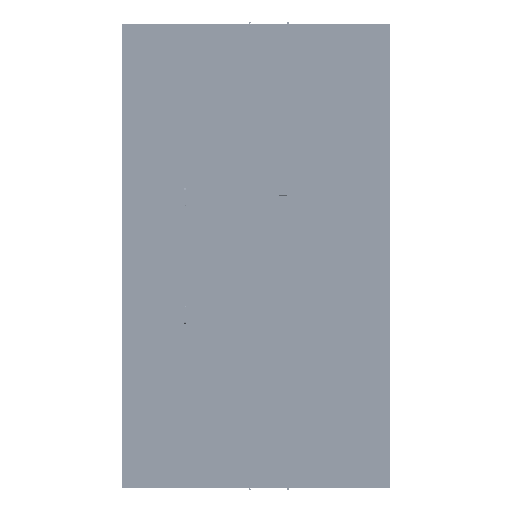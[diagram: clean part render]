
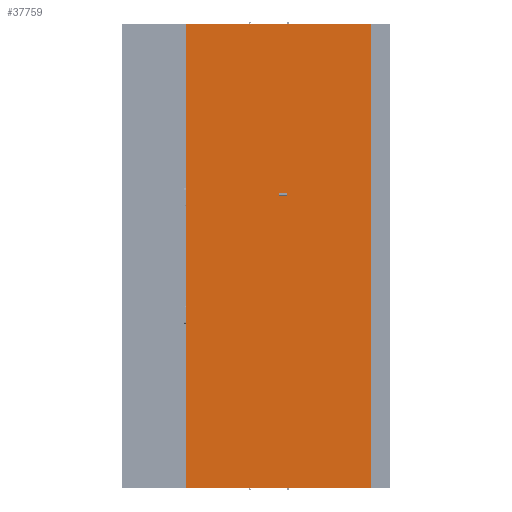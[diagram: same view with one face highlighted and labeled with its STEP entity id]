
A CAD part, left-side view. The second image highlights one B-rep face of the part: STEP entity #37759.
In plain terms, the highlighted planar face has unit normal (-1, 0, 0) as drawn and (0, 0, -1) by its records, which use the part's own axes.
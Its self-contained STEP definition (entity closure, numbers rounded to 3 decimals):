
#7487=FACE_OUTER_BOUND('',#9561,.T.);
#9561=EDGE_LOOP('',(#34307,#34308,#34309,#34310));
#12942=LINE('',#68495,#16391);
#12943=LINE('',#68498,#16392);
#12944=LINE('',#68500,#16393);
#12945=LINE('',#68501,#16394);
#16391=VECTOR('',#52333,0.394);
#16392=VECTOR('',#52336,0.394);
#16393=VECTOR('',#52337,0.394);
#16394=VECTOR('',#52338,0.394);
#19639=VERTEX_POINT('',#68491);
#19640=VERTEX_POINT('',#68493);
#19641=VERTEX_POINT('',#68497);
#19642=VERTEX_POINT('',#68499);
#24545=EDGE_CURVE('',#19639,#19640,#12942,.T.);
#24546=EDGE_CURVE('',#19641,#19639,#12943,.T.);
#24547=EDGE_CURVE('',#19642,#19640,#12944,.T.);
#24548=EDGE_CURVE('',#19641,#19642,#12945,.T.);
#34307=ORIENTED_EDGE('',*,*,#24546,.T.);
#34308=ORIENTED_EDGE('',*,*,#24545,.T.);
#34309=ORIENTED_EDGE('',*,*,#24547,.F.);
#34310=ORIENTED_EDGE('',*,*,#24548,.F.);
#35788=PLANE('',#42048);
#37759=ADVANCED_FACE('',(#7487),#35788,.T.);
#42048=AXIS2_PLACEMENT_3D('',#68496,#52334,#52335);
#52333=DIRECTION('',(0.,1.,0.));
#52334=DIRECTION('center_axis',(0.,0.,-1.));
#52335=DIRECTION('ref_axis',(-1.,0.,0.));
#52336=DIRECTION('',(-1.,0.,0.));
#52337=DIRECTION('',(-1.,0.,0.));
#52338=DIRECTION('',(0.,1.,0.));
#68491=CARTESIAN_POINT('',(-3.,3.,-9.));
#68493=CARTESIAN_POINT('',(-3.,32.,-9.));
#68495=CARTESIAN_POINT('',(-3.,3.,-9.));
#68496=CARTESIAN_POINT('Origin',(69.5,3.,-9.));
#68497=CARTESIAN_POINT('',(69.5,3.,-9.));
#68498=CARTESIAN_POINT('',(69.5,3.,-9.));
#68499=CARTESIAN_POINT('',(69.5,32.,-9.));
#68500=CARTESIAN_POINT('',(69.5,32.,-9.));
#68501=CARTESIAN_POINT('',(69.5,3.,-9.));
